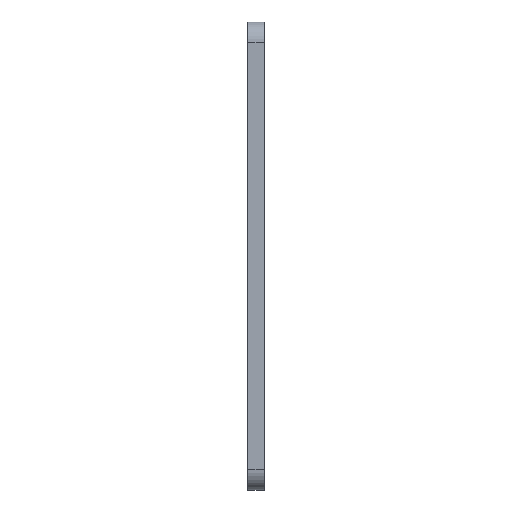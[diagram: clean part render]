
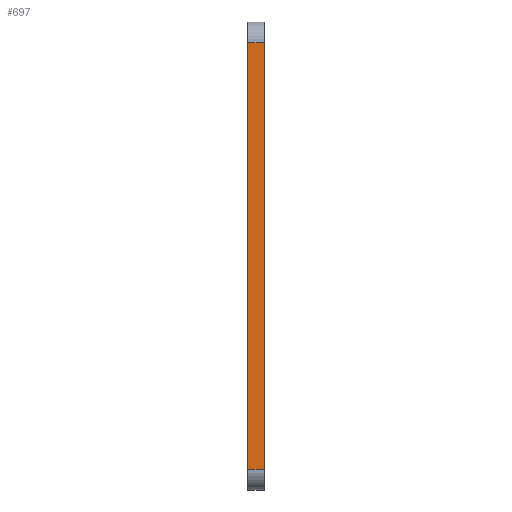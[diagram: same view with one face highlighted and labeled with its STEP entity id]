
A CAD part, left-side view. The second image highlights one B-rep face of the part: STEP entity #697.
In plain terms, the highlighted planar face has unit normal (-1, 0, 0).
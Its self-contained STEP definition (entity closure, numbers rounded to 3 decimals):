
#30 = VECTOR ( 'NONE', #439, 1000. ) ;
#47 = CARTESIAN_POINT ( 'NONE',  ( -18.5, 0., -6. ) ) ;
#75 = CARTESIAN_POINT ( 'NONE',  ( -18.5, 2., 46. ) ) ;
#80 = CARTESIAN_POINT ( 'NONE',  ( -18.5, 0., 46. ) ) ;
#83 = VECTOR ( 'NONE', #741, 1000. ) ;
#101 = LINE ( 'NONE', #672, #83 ) ;
#118 = DIRECTION ( 'NONE',  ( 0., 0., 1. ) ) ;
#119 = VERTEX_POINT ( 'NONE', #47 ) ;
#146 = DIRECTION ( 'NONE',  ( 0., -1., 0. ) ) ;
#162 = LINE ( 'NONE', #818, #650 ) ;
#222 = CARTESIAN_POINT ( 'NONE',  ( -18.5, 2., -6. ) ) ;
#230 = VERTEX_POINT ( 'NONE', #75 ) ;
#366 = PLANE ( 'NONE',  #585 ) ;
#416 = DIRECTION ( 'NONE',  ( -1., 0., 0. ) ) ;
#419 = VERTEX_POINT ( 'NONE', #80 ) ;
#439 = DIRECTION ( 'NONE',  ( 0., 1., 0. ) ) ;
#469 = ORIENTED_EDGE ( 'NONE', *, *, #803, .T. ) ;
#482 = CARTESIAN_POINT ( 'NONE',  ( -18.5, 2., -8.5 ) ) ;
#499 = LINE ( 'NONE', #482, #566 ) ;
#524 = ORIENTED_EDGE ( 'NONE', *, *, #777, .T. ) ;
#563 = DIRECTION ( 'NONE',  ( 0., 0., 1. ) ) ;
#566 = VECTOR ( 'NONE', #118, 1000. ) ;
#585 = AXIS2_PLACEMENT_3D ( 'NONE', #860, #416, #563 ) ;
#650 = VECTOR ( 'NONE', #146, 1000. ) ;
#652 = EDGE_LOOP ( 'NONE', ( #469, #898, #795, #524 ) ) ;
#672 = CARTESIAN_POINT ( 'NONE',  ( -18.5, 0., -8.5 ) ) ;
#697 = ADVANCED_FACE ( 'NONE', ( #960 ), #366, .T. ) ;
#708 = EDGE_CURVE ( 'NONE', #906, #230, #499, .T. ) ;
#741 = DIRECTION ( 'NONE',  ( 0., 0., 1. ) ) ;
#777 = EDGE_CURVE ( 'NONE', #906, #119, #162, .T. ) ;
#787 = EDGE_CURVE ( 'NONE', #419, #230, #894, .T. ) ;
#795 = ORIENTED_EDGE ( 'NONE', *, *, #708, .F. ) ;
#803 = EDGE_CURVE ( 'NONE', #119, #419, #101, .T. ) ;
#818 = CARTESIAN_POINT ( 'NONE',  ( -18.5, 0., -6. ) ) ;
#826 = CARTESIAN_POINT ( 'NONE',  ( -18.5, 0., 46. ) ) ;
#860 = CARTESIAN_POINT ( 'NONE',  ( -18.5, 0., -8.5 ) ) ;
#894 = LINE ( 'NONE', #826, #30 ) ;
#898 = ORIENTED_EDGE ( 'NONE', *, *, #787, .T. ) ;
#906 = VERTEX_POINT ( 'NONE', #222 ) ;
#960 = FACE_OUTER_BOUND ( 'NONE', #652, .T. ) ;
